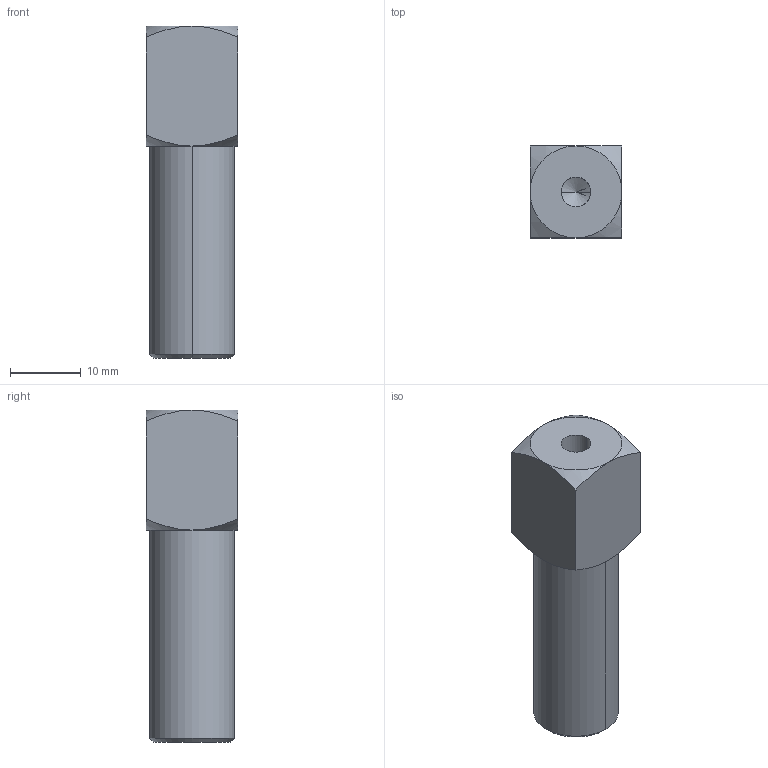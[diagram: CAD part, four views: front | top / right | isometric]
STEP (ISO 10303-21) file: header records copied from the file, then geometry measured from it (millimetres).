
FILE_DESCRIPTION (( 'STEP AP214' ), '1' );
FILE_NAME ('SVE-M51230.STEP', '2023-01-29T05:49:03', ( 'Windows User' ), ( 'P R C' ), 'SwSTEP 2.0', 'SolidWorks 2019', '' );
FILE_SCHEMA (( 'AUTOMOTIVE_DESIGN' ));
Length unit declared in the file: millimetre
Products named in the file (1): SVE-M51230
Bounding box: 13 x 13 x 47 mm (x, y, z)
Volume: 5264.6 mm3; surface area: 2972 mm2
Topology: 1 solids, 1 shells, 33 faces, 77 edges, 44 vertices
Faces by surface type: cone 18, cylinder 8, plane 7
Entity records: 1065 total; most frequent: CARTESIAN_POINT 277, DIRECTION 149, ORIENTED_EDGE 146, EDGE_CURVE 73, AXIS2_PLACEMENT_3D 64, VERTEX_POINT 44, EDGE_LOOP 37, ADVANCED_FACE 33
